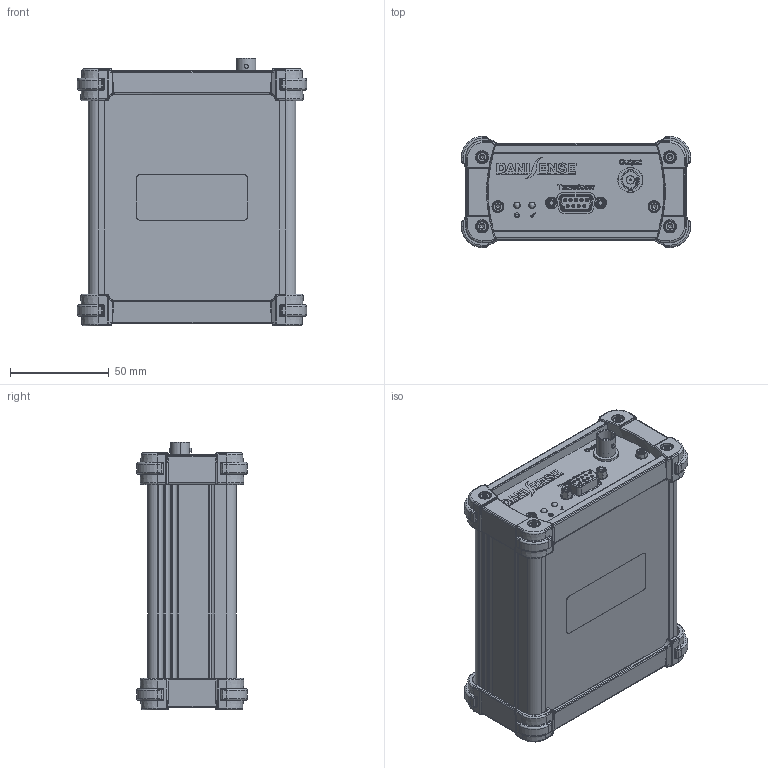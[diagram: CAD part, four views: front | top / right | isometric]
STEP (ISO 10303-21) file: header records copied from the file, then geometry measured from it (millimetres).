
FILE_DESCRIPTION (( 'STEP AP214' ), '1' );
FILE_NAME ('1351000013_DSSIU-1-V.STEP', '2025-06-20T09:17:44', ( '' ), ( '' ), 'SwSTEP 2.0', 'SolidWorks 2022', '' );
FILE_SCHEMA (( 'AUTOMOTIVE_DESIGN' ));
Length unit declared in the file: millimetre
Products named in the file (1): 1351000013_DSSIU-1-V
Bounding box: 116 x 56 x 135.5 mm (x, y, z)
Surface area: 74879.7 mm2 (no closed solid volume)
Topology: 0 solids, 143 shells, 1975 faces, 8419 edges, 6470 vertices
Faces by surface type: cylinder 844, plane 489, bspline 322, cone 172, torus 104, sphere 44
Entity records: 136717 total; most frequent: CARTESIAN_POINT 54001, ORIENTED_EDGE 12318, DIRECTION 10244, EDGE_CURVE 8371, VERTEX_POINT 6470, VECTOR 3750, LINE 3750, AXIS2_PLACEMENT_3D 3247
